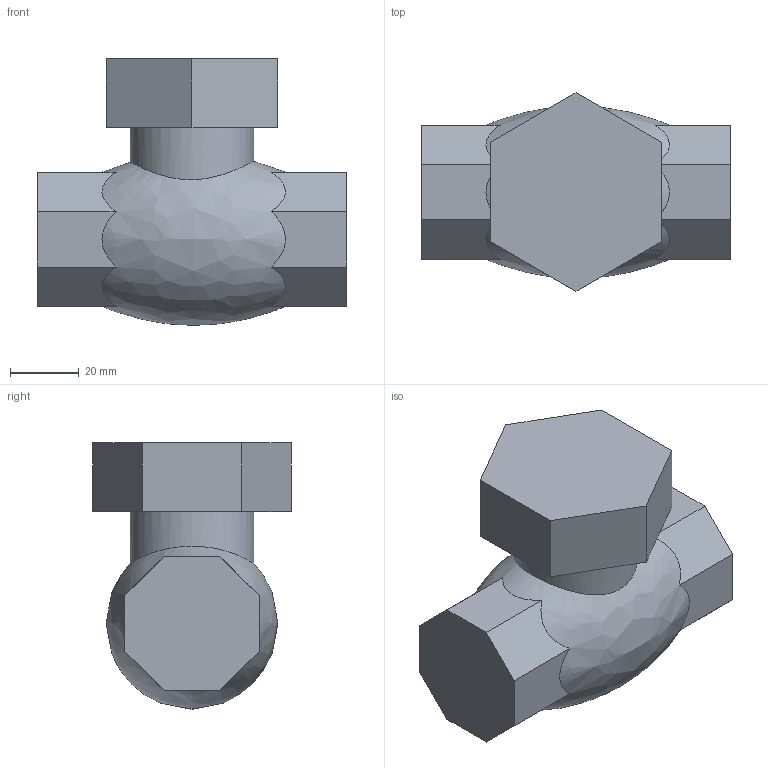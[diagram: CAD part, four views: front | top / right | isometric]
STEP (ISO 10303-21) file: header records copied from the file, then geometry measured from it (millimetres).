
FILE_DESCRIPTION(/* description */ (''),/* implementation_level */ '2;1');
FILE_NAME(/* name */ '20A.step',/* time_stamp */ '2023-12-08T09:28:26+09:00',/* author */ (''),/* organization */ (''),/* preprocessor_version */ 'ST-DEVELOPER v20',/* originating_system */ 'Autodesk Translation Framework v12.14.0.127',/* authorisation */ '');
FILE_SCHEMA (('AUTOMOTIVE_DESIGN { 1 0 10303 214 3 1 1 }'));
Length unit declared in the file: millimetre
Products named in the file (1): 20A
Bounding box: 90 x 57.73 x 77.5 mm (x, y, z)
Volume: 190324.5 mm3; surface area: 22307.2 mm2
Topology: 1 solids, 1 shells, 28 faces, 74 edges, 49 vertices
Faces by surface type: plane 26, bspline 1, cylinder 1
Full cylindrical faces by diameter (mm): 36 x1
Entity records: 1263 total; most frequent: CARTESIAN_POINT 581, ORIENTED_EDGE 148, DIRECTION 109, EDGE_CURVE 74, LINE 51, VECTOR 51, VERTEX_POINT 49, EDGE_LOOP 29
